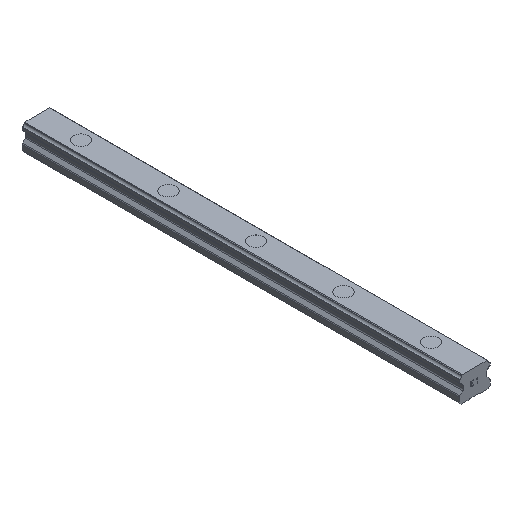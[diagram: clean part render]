
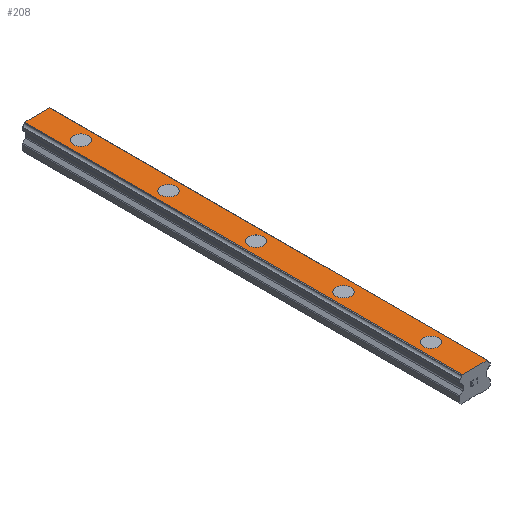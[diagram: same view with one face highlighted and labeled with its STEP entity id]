
A CAD part, isometric view. The second image highlights one B-rep face of the part: STEP entity #208.
In plain terms, the highlighted planar face has unit normal (0, 0, 1).
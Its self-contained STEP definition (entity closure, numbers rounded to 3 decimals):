
#208=ADVANCED_FACE('',(#504,#505,#506,#507,#508,#509),#510,.T.);
#504=FACE_BOUND('',#824,.T.);
#505=FACE_BOUND('',#825,.T.);
#506=FACE_BOUND('',#826,.T.);
#507=FACE_BOUND('',#827,.T.);
#508=FACE_BOUND('',#828,.T.);
#509=FACE_OUTER_BOUND('',#829,.T.);
#510=PLANE('',#830);
#824=EDGE_LOOP('',(#1985,#1986));
#825=EDGE_LOOP('',(#1987,#1988));
#826=EDGE_LOOP('',(#1989,#1990));
#827=EDGE_LOOP('',(#1991,#1992));
#828=EDGE_LOOP('',(#1993,#1994));
#829=EDGE_LOOP('',(#1995,#1996,#1997,#1998));
#830=AXIS2_PLACEMENT_3D('',#1999,#2000,#2001);
#1985=ORIENTED_EDGE('',*,*,#2197,.T.);
#1986=ORIENTED_EDGE('',*,*,#2488,.T.);
#1987=ORIENTED_EDGE('',*,*,#2187,.T.);
#1988=ORIENTED_EDGE('',*,*,#2505,.T.);
#1989=ORIENTED_EDGE('',*,*,#2177,.T.);
#1990=ORIENTED_EDGE('',*,*,#2510,.T.);
#1991=ORIENTED_EDGE('',*,*,#2167,.T.);
#1992=ORIENTED_EDGE('',*,*,#2515,.T.);
#1993=ORIENTED_EDGE('',*,*,#2157,.T.);
#1994=ORIENTED_EDGE('',*,*,#2520,.T.);
#1995=ORIENTED_EDGE('',*,*,#2471,.T.);
#1996=ORIENTED_EDGE('',*,*,#2542,.F.);
#1997=ORIENTED_EDGE('',*,*,#2367,.F.);
#1998=ORIENTED_EDGE('',*,*,#2541,.T.);
#1999=CARTESIAN_POINT('',(-11.386,400.0,23.));
#2000=DIRECTION('',(0.0,0.0,1.0));
#2001=DIRECTION('',(-1.0,0.0,-0.0));
#2157=EDGE_CURVE('',#2576,#2573,#2577,.T.);
#2167=EDGE_CURVE('',#2596,#2593,#2597,.T.);
#2177=EDGE_CURVE('',#2616,#2613,#2617,.T.);
#2187=EDGE_CURVE('',#2636,#2633,#2637,.T.);
#2197=EDGE_CURVE('',#2656,#2653,#2657,.T.);
#2367=EDGE_CURVE('',#2941,#2943,#2944,.T.);
#2471=EDGE_CURVE('',#3130,#3128,#3131,.T.);
#2488=EDGE_CURVE('',#2653,#2656,#3163,.T.);
#2505=EDGE_CURVE('',#2633,#2636,#3186,.T.);
#2510=EDGE_CURVE('',#2613,#2616,#3192,.T.);
#2515=EDGE_CURVE('',#2593,#2596,#3198,.T.);
#2520=EDGE_CURVE('',#2573,#2576,#3204,.T.);
#2541=EDGE_CURVE('',#2941,#3130,#3226,.T.);
#2542=EDGE_CURVE('',#2943,#3128,#3227,.T.);
#2573=VERTEX_POINT('',#3260);
#2576=VERTEX_POINT('',#3264);
#2577=CIRCLE('',#3265,7.0);
#2593=VERTEX_POINT('',#3284);
#2596=VERTEX_POINT('',#3288);
#2597=CIRCLE('',#3289,7.0);
#2613=VERTEX_POINT('',#3308);
#2616=VERTEX_POINT('',#3312);
#2617=CIRCLE('',#3313,7.0);
#2633=VERTEX_POINT('',#3332);
#2636=VERTEX_POINT('',#3336);
#2637=CIRCLE('',#3337,7.0);
#2653=VERTEX_POINT('',#3356);
#2656=VERTEX_POINT('',#3360);
#2657=CIRCLE('',#3361,7.0);
#2941=VERTEX_POINT('',#3778);
#2943=VERTEX_POINT('',#3781);
#2944=LINE('',#3782,#3783);
#3128=VERTEX_POINT('',#4051);
#3130=VERTEX_POINT('',#4054);
#3131=LINE('',#4055,#4056);
#3163=CIRCLE('',#4095,7.0);
#3186=CIRCLE('',#4126,7.0);
#3192=CIRCLE('',#4133,7.0);
#3198=CIRCLE('',#4140,7.0);
#3204=CIRCLE('',#4147,7.0);
#3226=LINE('',#4186,#4187);
#3227=LINE('',#4188,#4189);
#3260=CARTESIAN_POINT('',(7.0,40.0,23.));
#3264=CARTESIAN_POINT('',(-7.0,40.0,23.));
#3265=AXIS2_PLACEMENT_3D('',#4241,#4242,#4243);
#3284=CARTESIAN_POINT('',(7.0,120.0,23.));
#3288=CARTESIAN_POINT('',(-7.0,120.0,23.));
#3289=AXIS2_PLACEMENT_3D('',#4263,#4264,#4265);
#3308=CARTESIAN_POINT('',(7.0,200.0,23.));
#3312=CARTESIAN_POINT('',(-7.0,200.0,23.));
#3313=AXIS2_PLACEMENT_3D('',#4285,#4286,#4287);
#3332=CARTESIAN_POINT('',(7.0,280.0,23.));
#3336=CARTESIAN_POINT('',(-7.0,280.0,23.));
#3337=AXIS2_PLACEMENT_3D('',#4307,#4308,#4309);
#3356=CARTESIAN_POINT('',(7.0,360.0,23.));
#3360=CARTESIAN_POINT('',(-7.0,360.0,23.));
#3361=AXIS2_PLACEMENT_3D('',#4329,#4330,#4331);
#3778=CARTESIAN_POINT('',(-11.386,400.0,23.));
#3781=CARTESIAN_POINT('',(11.386,400.0,23.));
#3782=CARTESIAN_POINT('',(-11.386,400.0,23.));
#3783=VECTOR('',#4571,1.0);
#4051=CARTESIAN_POINT('',(11.386,0.0,23.));
#4054=CARTESIAN_POINT('',(-11.386,0.0,23.));
#4055=CARTESIAN_POINT('',(-11.386,0.0,23.));
#4056=VECTOR('',#4711,1.0);
#4095=AXIS2_PLACEMENT_3D('',#4746,#4747,#4748);
#4126=AXIS2_PLACEMENT_3D('',#4781,#4782,#4783);
#4133=AXIS2_PLACEMENT_3D('',#4794,#4795,#4796);
#4140=AXIS2_PLACEMENT_3D('',#4807,#4808,#4809);
#4147=AXIS2_PLACEMENT_3D('',#4820,#4821,#4822);
#4186=CARTESIAN_POINT('',(-11.386,400.0,23.));
#4187=VECTOR('',#4849,1.0);
#4188=CARTESIAN_POINT('',(11.386,400.0,23.));
#4189=VECTOR('',#4850,1.0);
#4241=CARTESIAN_POINT('',(0.0,40.0,23.));
#4242=DIRECTION('',(0.0,0.0,-1.0));
#4243=DIRECTION('',(1.0,0.0,0.0));
#4263=CARTESIAN_POINT('',(0.0,120.0,23.));
#4264=DIRECTION('',(0.0,0.0,-1.0));
#4265=DIRECTION('',(1.0,0.0,0.0));
#4285=CARTESIAN_POINT('',(0.0,200.0,23.));
#4286=DIRECTION('',(0.0,0.0,-1.0));
#4287=DIRECTION('',(1.0,0.0,0.0));
#4307=CARTESIAN_POINT('',(0.0,280.0,23.));
#4308=DIRECTION('',(0.0,0.0,-1.0));
#4309=DIRECTION('',(1.0,0.0,0.0));
#4329=CARTESIAN_POINT('',(0.0,360.0,23.));
#4330=DIRECTION('',(0.0,0.0,-1.0));
#4331=DIRECTION('',(1.0,0.0,0.0));
#4571=DIRECTION('',(1.0,0.0,0.0));
#4711=DIRECTION('',(1.0,0.0,0.0));
#4746=CARTESIAN_POINT('',(0.0,360.0,23.));
#4747=DIRECTION('',(0.0,0.0,-1.0));
#4748=DIRECTION('',(1.0,0.0,0.0));
#4781=CARTESIAN_POINT('',(0.0,280.0,23.));
#4782=DIRECTION('',(0.0,0.0,-1.0));
#4783=DIRECTION('',(1.0,0.0,0.0));
#4794=CARTESIAN_POINT('',(0.0,200.0,23.));
#4795=DIRECTION('',(0.0,0.0,-1.0));
#4796=DIRECTION('',(1.0,0.0,0.0));
#4807=CARTESIAN_POINT('',(0.0,120.0,23.));
#4808=DIRECTION('',(0.0,0.0,-1.0));
#4809=DIRECTION('',(1.0,0.0,0.0));
#4820=CARTESIAN_POINT('',(0.0,40.0,23.));
#4821=DIRECTION('',(0.0,0.0,-1.0));
#4822=DIRECTION('',(1.0,0.0,0.0));
#4849=DIRECTION('',(0.0,-1.0,0.0));
#4850=DIRECTION('',(0.0,-1.0,0.0));
